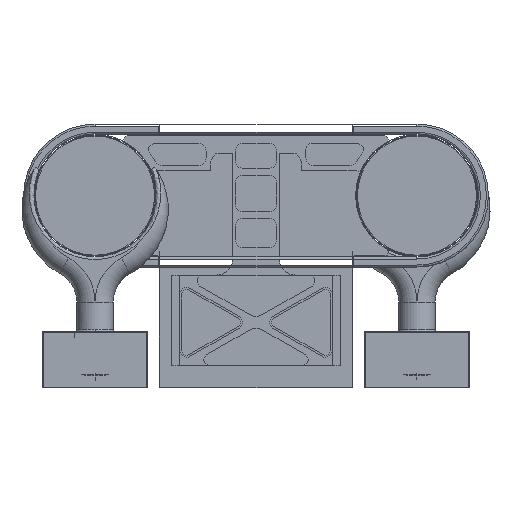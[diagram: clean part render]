
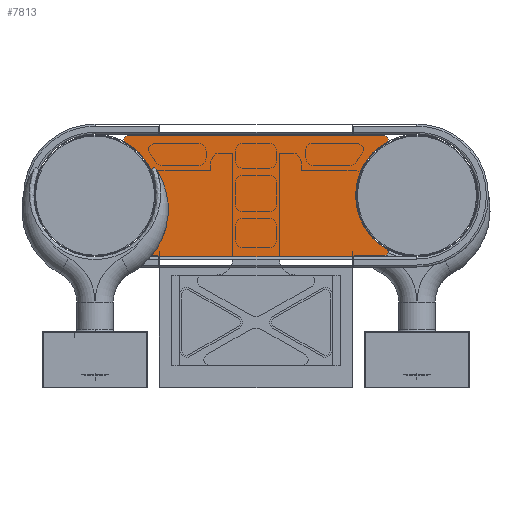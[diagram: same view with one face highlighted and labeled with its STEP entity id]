
A CAD part, left-side view. The second image highlights one B-rep face of the part: STEP entity #7813.
In plain terms, the highlighted planar face has unit normal (-1, 0, 0).
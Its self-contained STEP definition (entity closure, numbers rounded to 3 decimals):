
#58 = VERTEX_POINT ( 'NONE', #8510 ) ;
#119 = CARTESIAN_POINT ( 'NONE',  ( -58.5, -7.603, -13.22 ) ) ;
#121 = EDGE_LOOP ( 'NONE', ( #4198, #7695, #4807, #617, #8212, #241, #4976, #10006, #3551, #2309, #5454, #627, #720, #5667 ) ) ;
#174 = VECTOR ( 'NONE', #4249, 1000. ) ;
#241 = ORIENTED_EDGE ( 'NONE', *, *, #7013, .T. ) ;
#259 = VERTEX_POINT ( 'NONE', #9677 ) ;
#282 = CARTESIAN_POINT ( 'NONE',  ( -58.5, -64.1, -14.9 ) ) ;
#284 = EDGE_CURVE ( 'NONE', #11404, #6368, #1919, .T. ) ;
#448 = DIRECTION ( 'NONE',  ( 0., 0., 1. ) ) ;
#499 = CARTESIAN_POINT ( 'NONE',  ( -58.5, -16., -14.9 ) ) ;
#562 = CARTESIAN_POINT ( 'NONE',  ( -58.5, -16.1, -15.25 ) ) ;
#617 = ORIENTED_EDGE ( 'NONE', *, *, #10758, .T. ) ;
#627 = ORIENTED_EDGE ( 'NONE', *, *, #1356, .T. ) ;
#664 = CARTESIAN_POINT ( 'NONE',  ( -58.5, -80., 14.9 ) ) ;
#672 = DIRECTION ( 'NONE',  ( 0., 0., -1. ) ) ;
#720 = ORIENTED_EDGE ( 'NONE', *, *, #8382, .F. ) ;
#900 = CARTESIAN_POINT ( 'NONE',  ( -58.5, -8.051, 14. ) ) ;
#1035 = AXIS2_PLACEMENT_3D ( 'NONE', #10607, #5915, #1234 ) ;
#1210 = AXIS2_PLACEMENT_3D ( 'NONE', #9696, #7036, #448 ) ;
#1234 = DIRECTION ( 'NONE',  ( 0., 0., 1. ) ) ;
#1356 = EDGE_CURVE ( 'NONE', #6368, #2972, #4471, .T. ) ;
#1509 = CARTESIAN_POINT ( 'NONE',  ( -58.5, -15.9, -15.1 ) ) ;
#1596 = LINE ( 'NONE', #9073, #5178 ) ;
#1674 = CARTESIAN_POINT ( 'NONE',  ( -58.5, -16.1, -15.1 ) ) ;
#1736 = CARTESIAN_POINT ( 'NONE',  ( -58.5, -71.949, -14. ) ) ;
#1919 = CIRCLE ( 'NONE', #6058, 0.9 ) ;
#1985 = CIRCLE ( 'NONE', #1210, 0.2 ) ;
#2078 = DIRECTION ( 'NONE',  ( 1., 0., 0. ) ) ;
#2233 = LINE ( 'NONE', #4145, #10926 ) ;
#2309 = ORIENTED_EDGE ( 'NONE', *, *, #5742, .T. ) ;
#2447 = DIRECTION ( 'NONE',  ( 0., 0., 1. ) ) ;
#2740 = CARTESIAN_POINT ( 'NONE',  ( -58.5, -80., 0. ) ) ;
#2928 = DIRECTION ( 'NONE',  ( 0., 0., 1. ) ) ;
#2972 = VERTEX_POINT ( 'NONE', #12040 ) ;
#2994 = AXIS2_PLACEMENT_3D ( 'NONE', #3932, #11464, #7440 ) ;
#3005 = CARTESIAN_POINT ( 'NONE',  ( -58.5, -7.603, 13.22 ) ) ;
#3137 = CARTESIAN_POINT ( 'NONE',  ( -58.5, -8.051, -14. ) ) ;
#3300 = CARTESIAN_POINT ( 'NONE',  ( -58.5, -71.949, -14.9 ) ) ;
#3365 = DIRECTION ( 'NONE',  ( 0., 0., 1. ) ) ;
#3499 = VERTEX_POINT ( 'NONE', #4433 ) ;
#3527 = DIRECTION ( 'NONE',  ( 0., 0., 1. ) ) ;
#3551 = ORIENTED_EDGE ( 'NONE', *, *, #7040, .T. ) ;
#3929 = PLANE ( 'NONE',  #9662 ) ;
#3932 = CARTESIAN_POINT ( 'NONE',  ( -58.5, 0., 0. ) ) ;
#4145 = CARTESIAN_POINT ( 'NONE',  ( -58.5, -71.949, -14.9 ) ) ;
#4198 = ORIENTED_EDGE ( 'NONE', *, *, #10093, .T. ) ;
#4249 = DIRECTION ( 'NONE',  ( 0., -1., 0. ) ) ;
#4433 = CARTESIAN_POINT ( 'NONE',  ( -58.5, -16.1, -15.15 ) ) ;
#4471 = LINE ( 'NONE', #499, #174 ) ;
#4508 = DIRECTION ( 'NONE',  ( -1., 0., 0. ) ) ;
#4655 = CARTESIAN_POINT ( 'NONE',  ( -58.5, -63.9, -15.1 ) ) ;
#4726 = VECTOR ( 'NONE', #672, 1000. ) ;
#4728 = CARTESIAN_POINT ( 'NONE',  ( -58.5, -63.9, -15. ) ) ;
#4743 = AXIS2_PLACEMENT_3D ( 'NONE', #1509, #4508, #3527 ) ;
#4807 = ORIENTED_EDGE ( 'NONE', *, *, #8292, .F. ) ;
#4976 = ORIENTED_EDGE ( 'NONE', *, *, #9519, .T. ) ;
#5037 = EDGE_CURVE ( 'NONE', #6157, #58, #9128, .T. ) ;
#5178 = VECTOR ( 'NONE', #11852, 1000. ) ;
#5234 = LINE ( 'NONE', #562, #4726 ) ;
#5454 = ORIENTED_EDGE ( 'NONE', *, *, #284, .T. ) ;
#5667 = ORIENTED_EDGE ( 'NONE', *, *, #7649, .T. ) ;
#5742 = EDGE_CURVE ( 'NONE', #7830, #11404, #6147, .T. ) ;
#5915 = DIRECTION ( 'NONE',  ( -1., 0., 0. ) ) ;
#5931 = DIRECTION ( 'NONE',  ( 0., -1., 0. ) ) ;
#6035 = DIRECTION ( 'NONE',  ( -1., 0., 0. ) ) ;
#6058 = AXIS2_PLACEMENT_3D ( 'NONE', #3137, #6035, #2447 ) ;
#6147 = CIRCLE ( 'NONE', #2994, 15.25 ) ;
#6157 = VERTEX_POINT ( 'NONE', #3300 ) ;
#6368 = VERTEX_POINT ( 'NONE', #11632 ) ;
#6631 = DIRECTION ( 'NONE',  ( 0., 0., 1. ) ) ;
#6831 = CARTESIAN_POINT ( 'NONE',  ( -58.5, -80., 0. ) ) ;
#7013 = EDGE_CURVE ( 'NONE', #58, #9330, #10642, .T. ) ;
#7036 = DIRECTION ( 'NONE',  ( -1., 0., 0. ) ) ;
#7040 = EDGE_CURVE ( 'NONE', #259, #7830, #7081, .T. ) ;
#7066 = DIRECTION ( 'NONE',  ( -1., 0., 0. ) ) ;
#7081 = CIRCLE ( 'NONE', #8480, 0.9 ) ;
#7428 = DIRECTION ( 'NONE',  ( 0., 0., 1. ) ) ;
#7440 = DIRECTION ( 'NONE',  ( 0., 0., 1. ) ) ;
#7649 = EDGE_CURVE ( 'NONE', #9133, #3499, #5234, .T. ) ;
#7695 = ORIENTED_EDGE ( 'NONE', *, *, #7707, .T. ) ;
#7696 = DIRECTION ( 'NONE',  ( 0., 0., -1. ) ) ;
#7707 = EDGE_CURVE ( 'NONE', #8407, #9780, #9424, .T. ) ;
#7813 = ADVANCED_FACE ( 'NONE', ( #8823 ), #3929, .T. ) ;
#7830 = VERTEX_POINT ( 'NONE', #3005 ) ;
#8107 = CIRCLE ( 'NONE', #4743, 0.2 ) ;
#8212 = ORIENTED_EDGE ( 'NONE', *, *, #5037, .T. ) ;
#8292 = EDGE_CURVE ( 'NONE', #8995, #9780, #1985, .T. ) ;
#8326 = CARTESIAN_POINT ( 'NONE',  ( -58.5, -72.397, 13.22 ) ) ;
#8382 = EDGE_CURVE ( 'NONE', #9133, #2972, #8107, .T. ) ;
#8407 = VERTEX_POINT ( 'NONE', #10886 ) ;
#8480 = AXIS2_PLACEMENT_3D ( 'NONE', #900, #11452, #2928 ) ;
#8510 = CARTESIAN_POINT ( 'NONE',  ( -58.5, -72.397, -13.22 ) ) ;
#8823 = FACE_OUTER_BOUND ( 'NONE', #121, .T. ) ;
#8921 = CIRCLE ( 'NONE', #1035, 0.9 ) ;
#8995 = VERTEX_POINT ( 'NONE', #282 ) ;
#9073 = CARTESIAN_POINT ( 'NONE',  ( -58.5, -80., -15.15 ) ) ;
#9115 = LINE ( 'NONE', #664, #11074 ) ;
#9128 = CIRCLE ( 'NONE', #11707, 0.9 ) ;
#9133 = VERTEX_POINT ( 'NONE', #1674 ) ;
#9172 = DIRECTION ( 'NONE',  ( 0., 1., 0. ) ) ;
#9330 = VERTEX_POINT ( 'NONE', #8326 ) ;
#9424 = LINE ( 'NONE', #4728, #11645 ) ;
#9519 = EDGE_CURVE ( 'NONE', #9330, #11733, #8921, .T. ) ;
#9586 = EDGE_CURVE ( 'NONE', #11733, #259, #9115, .T. ) ;
#9662 = AXIS2_PLACEMENT_3D ( 'NONE', #6831, #10601, #7696 ) ;
#9677 = CARTESIAN_POINT ( 'NONE',  ( -58.5, -8.051, 14.9 ) ) ;
#9696 = CARTESIAN_POINT ( 'NONE',  ( -58.5, -64.1, -15.1 ) ) ;
#9780 = VERTEX_POINT ( 'NONE', #4655 ) ;
#10006 = ORIENTED_EDGE ( 'NONE', *, *, #9586, .T. ) ;
#10092 = CARTESIAN_POINT ( 'NONE',  ( -58.5, -71.949, 14.9 ) ) ;
#10093 = EDGE_CURVE ( 'NONE', #3499, #8407, #1596, .T. ) ;
#10601 = DIRECTION ( 'NONE',  ( -1., 0., 0. ) ) ;
#10607 = CARTESIAN_POINT ( 'NONE',  ( -58.5, -71.949, 14. ) ) ;
#10642 = CIRCLE ( 'NONE', #10834, 15.25 ) ;
#10758 = EDGE_CURVE ( 'NONE', #8995, #6157, #2233, .T. ) ;
#10834 = AXIS2_PLACEMENT_3D ( 'NONE', #2740, #2078, #7428 ) ;
#10886 = CARTESIAN_POINT ( 'NONE',  ( -58.5, -63.9, -15.15 ) ) ;
#10926 = VECTOR ( 'NONE', #5931, 1000. ) ;
#11074 = VECTOR ( 'NONE', #9172, 1000. ) ;
#11404 = VERTEX_POINT ( 'NONE', #119 ) ;
#11452 = DIRECTION ( 'NONE',  ( -1., 0., 0. ) ) ;
#11464 = DIRECTION ( 'NONE',  ( 1., 0., 0. ) ) ;
#11632 = CARTESIAN_POINT ( 'NONE',  ( -58.5, -8.051, -14.9 ) ) ;
#11645 = VECTOR ( 'NONE', #6631, 1000. ) ;
#11707 = AXIS2_PLACEMENT_3D ( 'NONE', #1736, #7066, #3365 ) ;
#11733 = VERTEX_POINT ( 'NONE', #10092 ) ;
#11852 = DIRECTION ( 'NONE',  ( 0., -1., 0. ) ) ;
#12040 = CARTESIAN_POINT ( 'NONE',  ( -58.5, -15.9, -14.9 ) ) ;
